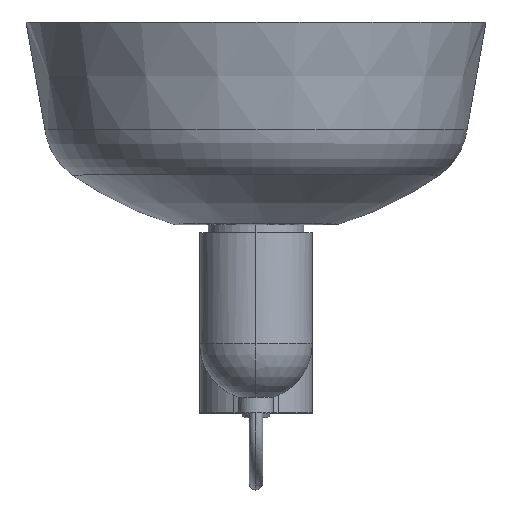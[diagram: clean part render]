
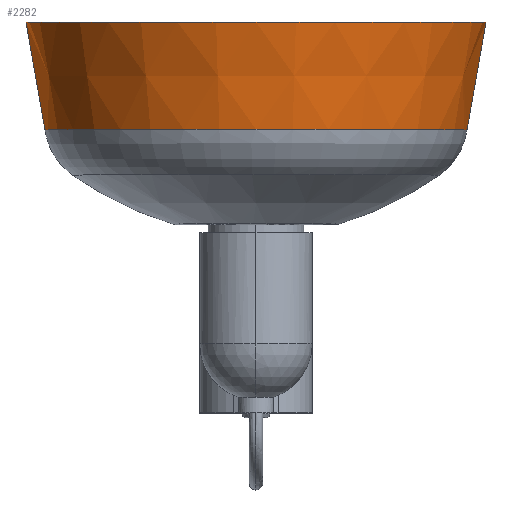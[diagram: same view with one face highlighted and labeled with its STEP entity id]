
A CAD part, top view. The second image highlights one B-rep face of the part: STEP entity #2282.
In plain terms, the highlighted conical face has half-angle 9.965 degrees and reference radius 85.212 mm.
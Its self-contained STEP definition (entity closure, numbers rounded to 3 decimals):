
#189=CONICAL_SURFACE('',#3036,85.212,0.174);
#263=FACE_OUTER_BOUND('',#451,.T.);
#451=EDGE_LOOP('',(#1606,#1607,#1608,#1609));
#760=VERTEX_POINT('',#5842);
#761=VERTEX_POINT('',#5844);
#762=VERTEX_POINT('',#5850);
#763=VERTEX_POINT('',#5852);
#1060=EDGE_CURVE('',#761,#760,#2466,.T.);
#1063=EDGE_CURVE('',#762,#760,#2611,.T.);
#1064=EDGE_CURVE('',#763,#762,#2468,.T.);
#1065=EDGE_CURVE('',#761,#763,#2612,.T.);
#1606=ORIENTED_EDGE('',*,*,#1060,.T.);
#1607=ORIENTED_EDGE('',*,*,#1063,.F.);
#1608=ORIENTED_EDGE('',*,*,#1064,.F.);
#1609=ORIENTED_EDGE('',*,*,#1065,.F.);
#2282=ADVANCED_FACE('',(#263),#189,.T.);
#2466=CIRCLE('',#3033,92.006);
#2468=CIRCLE('',#3037,84.457);
#2611=LINE('',#5851,#2794);
#2612=LINE('',#5854,#2795);
#2794=VECTOR('',#3467,304.8);
#2795=VECTOR('',#3470,304.8);
#3033=AXIS2_PLACEMENT_3D('',#5845,#3458,#3459);
#3036=AXIS2_PLACEMENT_3D('',#5849,#3465,#3466);
#3037=AXIS2_PLACEMENT_3D('',#5853,#3468,#3469);
#3458=DIRECTION('center_axis',(0.,-1.,0.));
#3459=DIRECTION('ref_axis',(0.809,0.,-0.588));
#3465=DIRECTION('center_axis',(0.,1.,0.));
#3466=DIRECTION('ref_axis',(0.,0.,
1.));
#3467=DIRECTION('',(-0.173,0.985,0.));
#3468=DIRECTION('center_axis',(0.,-1.,0.));
#3469=DIRECTION('ref_axis',(0.809,0.,-0.588));
#3470=DIRECTION('',(-0.173,-0.985,0.));
#5842=CARTESIAN_POINT('',(-92.006,122.369,118.));
#5844=CARTESIAN_POINT('',(92.006,122.369,118.));
#5845=CARTESIAN_POINT('Origin',(0.,122.369,118.));
#5849=CARTESIAN_POINT('Origin',(0.,83.699,118.));
#5850=CARTESIAN_POINT('',(-84.457,79.403,118.));
#5851=CARTESIAN_POINT('',(-84.457,79.403,118.));
#5852=CARTESIAN_POINT('',(84.457,79.403,118.));
#5853=CARTESIAN_POINT('Origin',(0.,79.403,118.));
#5854=CARTESIAN_POINT('',(92.006,122.369,118.));
